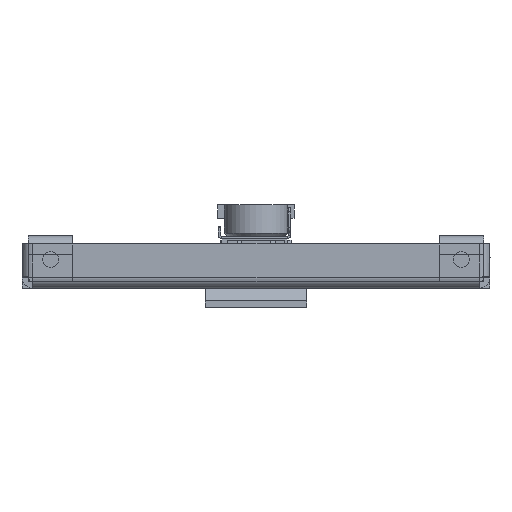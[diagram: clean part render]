
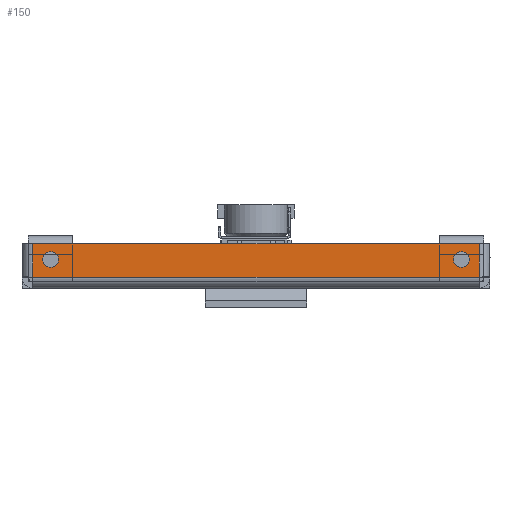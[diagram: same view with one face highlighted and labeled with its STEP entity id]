
A CAD part, left-side view. The second image highlights one B-rep face of the part: STEP entity #150.
In plain terms, the highlighted planar face has unit normal (-1, 0, 0).
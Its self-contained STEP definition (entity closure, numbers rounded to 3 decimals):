
#150=ADVANCED_FACE('',(#799,#801,#803),#805,.F.);
#799=FACE_BOUND('',#800,.T.);
#800=EDGE_LOOP('',(#3544,#3545,#3546,#3547));
#801=FACE_BOUND('',#802,.T.);
#802=EDGE_LOOP('',(#3548));
#803=FACE_BOUND('',#804,.T.);
#804=EDGE_LOOP('',(#3549));
#805=PLANE('',#806);
#806=AXIS2_PLACEMENT_3D('',#807,#808,#809);
#807=CARTESIAN_POINT('',(-393.2,0.,0.));
#808=DIRECTION('',(1.,0.,0.));
#809=DIRECTION('',(0.,0.,-1.));
#3544=ORIENTED_EDGE('',*,*,#5313,.F.);
#3545=ORIENTED_EDGE('',*,*,#5315,.F.);
#3546=ORIENTED_EDGE('',*,*,#5316,.F.);
#3547=ORIENTED_EDGE('',*,*,#5317,.F.);
#3548=ORIENTED_EDGE('',*,*,#5130,.T.);
#3549=ORIENTED_EDGE('',*,*,#5132,.F.);
#5130=EDGE_CURVE('',#6046,#6046,#6047,.T.);
#5132=EDGE_CURVE('',#6050,#6050,#6051,.T.);
#5313=EDGE_CURVE('',#6352,#6345,#6356,.T.);
#5315=EDGE_CURVE('',#6358,#6352,#6359,.T.);
#5316=EDGE_CURVE('',#6360,#6358,#6361,.T.);
#5317=EDGE_CURVE('',#6345,#6360,#6362,.T.);
#6046=VERTEX_POINT('',#7552);
#6047=CIRCLE('',#7553,2.5);
#6050=VERTEX_POINT('',#7562);
#6051=CIRCLE('',#7563,2.5);
#6345=VERTEX_POINT('',#8305);
#6352=VERTEX_POINT('',#8325);
#6356=LINE('',#8336,#8337);
#6358=VERTEX_POINT('',#8342);
#6359=LINE('',#8343,#8344);
#6360=VERTEX_POINT('',#8346);
#6361=LINE('',#8347,#8348);
#6362=LINE('',#8350,#8351);
#7552=CARTESIAN_POINT('',(-393.2,-64.5,11.5));
#7553=AXIS2_PLACEMENT_3D('',#7554,#7555,#7556);
#7554=CARTESIAN_POINT('',(-393.2,-64.5,9.));
#7555=DIRECTION('',(1.,0.,0.));
#7556=DIRECTION('',(0.,0.,1.));
#7562=CARTESIAN_POINT('',(-393.2,64.5,11.5));
#7563=AXIS2_PLACEMENT_3D('',#7564,#7565,#7566);
#7564=CARTESIAN_POINT('',(-393.2,64.5,9.));
#7565=DIRECTION('',(-1.,0.,0.));
#7566=DIRECTION('',(0.,0.,-1.));
#8305=CARTESIAN_POINT('',(-393.2,70.1,3.4));
#8325=CARTESIAN_POINT('',(-393.2,-70.1,3.4));
#8336=CARTESIAN_POINT('',(-393.2,-70.1,3.4));
#8337=VECTOR('',#8338,1.);
#8338=DIRECTION('',(0.,1.,0.));
#8342=CARTESIAN_POINT('',(-393.2,-70.1,14.));
#8343=CARTESIAN_POINT('',(-393.2,-70.1,14.));
#8344=VECTOR('',#8345,1.);
#8345=DIRECTION('',(0.,0.,-1.));
#8346=CARTESIAN_POINT('',(-393.2,70.1,14.));
#8347=CARTESIAN_POINT('',(-393.2,70.1,14.));
#8348=VECTOR('',#8349,1.);
#8349=DIRECTION('',(0.,-1.,0.));
#8350=CARTESIAN_POINT('',(-393.2,70.1,3.4));
#8351=VECTOR('',#8352,1.);
#8352=DIRECTION('',(0.,0.,1.));
